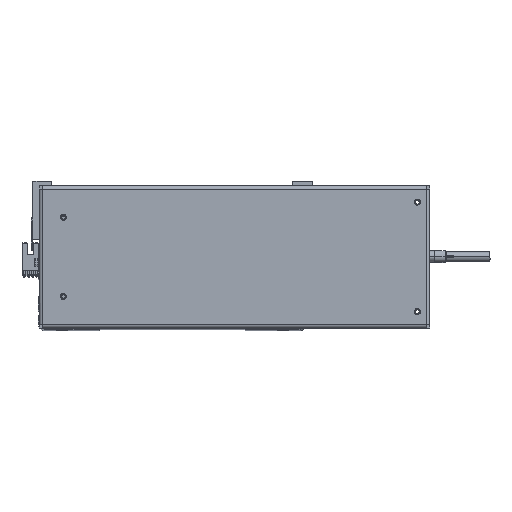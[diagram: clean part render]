
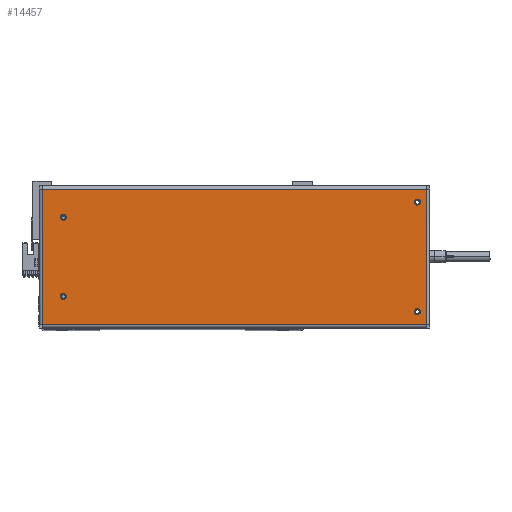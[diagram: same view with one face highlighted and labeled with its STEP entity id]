
A CAD part, top view. The second image highlights one B-rep face of the part: STEP entity #14457.
In plain terms, the highlighted planar face has unit normal (0, 0, 1).
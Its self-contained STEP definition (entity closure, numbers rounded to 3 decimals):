
#6 = EDGE_CURVE ( 'NONE', #35616, #3057, #22934, .T. ) ;
#151 = VERTEX_POINT ( 'NONE', #32840 ) ;
#458 = ORIENTED_EDGE ( 'NONE', *, *, #6, .F. ) ;
#1612 = EDGE_LOOP ( 'NONE', ( #5250, #16543 ) ) ;
#2319 = CARTESIAN_POINT ( 'NONE',  ( 150.5, -45., 0. ) ) ;
#2722 = VERTEX_POINT ( 'NONE', #16200 ) ;
#2921 = ORIENTED_EDGE ( 'NONE', *, *, #7831, .T. ) ;
#2963 = CARTESIAN_POINT ( 'NONE',  ( -157.7, -55.6, 0. ) ) ;
#3057 = VERTEX_POINT ( 'NONE', #39194 ) ;
#3556 = DIRECTION ( 'NONE',  ( 1., 0., 0. ) ) ;
#3595 = CARTESIAN_POINT ( 'NONE',  ( 153., 45., 0. ) ) ;
#4273 = CIRCLE ( 'NONE', #16322, 2.5 ) ;
#4335 = AXIS2_PLACEMENT_3D ( 'NONE', #27675, #15461, #12552 ) ;
#4814 = CARTESIAN_POINT ( 'NONE',  ( 148., -45., 0. ) ) ;
#4960 = EDGE_CURVE ( 'NONE', #11229, #30558, #21006, .T. ) ;
#5250 = ORIENTED_EDGE ( 'NONE', *, *, #6099, .F. ) ;
#5612 = AXIS2_PLACEMENT_3D ( 'NONE', #38696, #20553, #8574 ) ;
#6099 = EDGE_CURVE ( 'NONE', #37694, #11608, #24234, .T. ) ;
#6284 = VERTEX_POINT ( 'NONE', #22015 ) ;
#6983 = ORIENTED_EDGE ( 'NONE', *, *, #21761, .F. ) ;
#7001 = DIRECTION ( 'NONE',  ( -1., 0., 0. ) ) ;
#7831 = EDGE_CURVE ( 'NONE', #29443, #2722, #29369, .T. ) ;
#8574 = DIRECTION ( 'NONE',  ( -1., 0., 0. ) ) ;
#9462 = DIRECTION ( 'NONE',  ( 1., 0., 0. ) ) ;
#10216 = AXIS2_PLACEMENT_3D ( 'NONE', #24970, #21786, #3556 ) ;
#10311 = EDGE_LOOP ( 'NONE', ( #458, #33088 ) ) ;
#10567 = EDGE_CURVE ( 'NONE', #6284, #34957, #27244, .T. ) ;
#11109 = DIRECTION ( 'NONE',  ( 0., 0., 1. ) ) ;
#11229 = VERTEX_POINT ( 'NONE', #24194 ) ;
#11608 = VERTEX_POINT ( 'NONE', #4814 ) ;
#11717 = DIRECTION ( 'NONE',  ( 0., 0., 1. ) ) ;
#11843 = FACE_OUTER_BOUND ( 'NONE', #30831, .T. ) ;
#12148 = LINE ( 'NONE', #34781, #14995 ) ;
#12487 = AXIS2_PLACEMENT_3D ( 'NONE', #14488, #11717, #14758 ) ;
#12552 = DIRECTION ( 'NONE',  ( 1., 0., 0. ) ) ;
#12687 = CARTESIAN_POINT ( 'NONE',  ( 157.6, -55.6, 0. ) ) ;
#12790 = FACE_BOUND ( 'NONE', #30426, .T. ) ;
#13198 = EDGE_CURVE ( 'NONE', #3057, #35616, #4273, .T. ) ;
#13812 = ORIENTED_EDGE ( 'NONE', *, *, #17290, .F. ) ;
#14047 = LINE ( 'NONE', #12687, #20676 ) ;
#14457 = ADVANCED_FACE ( 'NONE', ( #20854, #25596, #20388, #12790, #11843 ), #17488, .F. ) ;
#14469 = EDGE_CURVE ( 'NONE', #11608, #37694, #18506, .T. ) ;
#14488 = CARTESIAN_POINT ( 'NONE',  ( -140.5, 32.5, 0. ) ) ;
#14758 = DIRECTION ( 'NONE',  ( 1., 0., 0. ) ) ;
#14811 = EDGE_LOOP ( 'NONE', ( #19372, #13812 ) ) ;
#14995 = VECTOR ( 'NONE', #19793, 1000. ) ;
#15461 = DIRECTION ( 'NONE',  ( 0., 0., 1. ) ) ;
#15772 = CIRCLE ( 'NONE', #10216, 2.5 ) ;
#16200 = CARTESIAN_POINT ( 'NONE',  ( 157.6, -55.6, 0. ) ) ;
#16322 = AXIS2_PLACEMENT_3D ( 'NONE', #32337, #11109, #32617 ) ;
#16488 = CARTESIAN_POINT ( 'NONE',  ( -143., -32.5, 0. ) ) ;
#16543 = ORIENTED_EDGE ( 'NONE', *, *, #14469, .F. ) ;
#17033 = CARTESIAN_POINT ( 'NONE',  ( -157.6, -55.6, 0. ) ) ;
#17290 = EDGE_CURVE ( 'NONE', #34957, #6284, #28394, .T. ) ;
#17312 = VERTEX_POINT ( 'NONE', #3595 ) ;
#17488 = PLANE ( 'NONE',  #5612 ) ;
#18029 = DIRECTION ( 'NONE',  ( 1., 0., 0. ) ) ;
#18506 = CIRCLE ( 'NONE', #20687, 2.5 ) ;
#18522 = CARTESIAN_POINT ( 'NONE',  ( -140.5, -32.5, 0. ) ) ;
#19372 = ORIENTED_EDGE ( 'NONE', *, *, #10567, .F. ) ;
#19416 = EDGE_CURVE ( 'NONE', #2722, #11229, #14047, .T. ) ;
#19604 = VECTOR ( 'NONE', #7001, 1000. ) ;
#19793 = DIRECTION ( 'NONE',  ( 0., -1., 0. ) ) ;
#19801 = CARTESIAN_POINT ( 'NONE',  ( -140.5, -32.5, 0. ) ) ;
#19929 = DIRECTION ( 'NONE',  ( 1., 0., 0. ) ) ;
#20388 = FACE_BOUND ( 'NONE', #1612, .T. ) ;
#20553 = DIRECTION ( 'NONE',  ( 0., 0., -1. ) ) ;
#20676 = VECTOR ( 'NONE', #22222, 1000. ) ;
#20687 = AXIS2_PLACEMENT_3D ( 'NONE', #2319, #26656, #23859 ) ;
#20798 = AXIS2_PLACEMENT_3D ( 'NONE', #18522, #27648, #9462 ) ;
#20854 = FACE_BOUND ( 'NONE', #14811, .T. ) ;
#21006 = LINE ( 'NONE', #21265, #19604 ) ;
#21265 = CARTESIAN_POINT ( 'NONE',  ( 157.7, 55.6, 0. ) ) ;
#21761 = EDGE_CURVE ( 'NONE', #151, #17312, #15772, .T. ) ;
#21786 = DIRECTION ( 'NONE',  ( 0., 0., 1. ) ) ;
#22015 = CARTESIAN_POINT ( 'NONE',  ( -138., -32.5, 0. ) ) ;
#22222 = DIRECTION ( 'NONE',  ( 0., 1., 0. ) ) ;
#22615 = EDGE_CURVE ( 'NONE', #17312, #151, #36572, .T. ) ;
#22700 = DIRECTION ( 'NONE',  ( 0., 0., 1. ) ) ;
#22934 = CIRCLE ( 'NONE', #12487, 2.5 ) ;
#23859 = DIRECTION ( 'NONE',  ( 1., 0., 0. ) ) ;
#24194 = CARTESIAN_POINT ( 'NONE',  ( 157.6, 55.6, 0. ) ) ;
#24234 = CIRCLE ( 'NONE', #24354, 2.5 ) ;
#24354 = AXIS2_PLACEMENT_3D ( 'NONE', #25894, #31973, #19929 ) ;
#24406 = AXIS2_PLACEMENT_3D ( 'NONE', #19801, #22700, #28799 ) ;
#24970 = CARTESIAN_POINT ( 'NONE',  ( 150.5, 45., 0. ) ) ;
#25596 = FACE_BOUND ( 'NONE', #10311, .T. ) ;
#25894 = CARTESIAN_POINT ( 'NONE',  ( 150.5, -45., 0. ) ) ;
#26101 = ORIENTED_EDGE ( 'NONE', *, *, #22615, .F. ) ;
#26656 = DIRECTION ( 'NONE',  ( 0., 0., 1. ) ) ;
#27244 = CIRCLE ( 'NONE', #24406, 2.5 ) ;
#27338 = CARTESIAN_POINT ( 'NONE',  ( -157.6, 55.6, 0. ) ) ;
#27480 = VECTOR ( 'NONE', #18029, 1000. ) ;
#27648 = DIRECTION ( 'NONE',  ( 0., 0., 1. ) ) ;
#27675 = CARTESIAN_POINT ( 'NONE',  ( 150.5, 45., 0. ) ) ;
#28336 = ORIENTED_EDGE ( 'NONE', *, *, #4960, .T. ) ;
#28394 = CIRCLE ( 'NONE', #20798, 2.5 ) ;
#28799 = DIRECTION ( 'NONE',  ( 1., 0., 0. ) ) ;
#29369 = LINE ( 'NONE', #2963, #27480 ) ;
#29443 = VERTEX_POINT ( 'NONE', #17033 ) ;
#30426 = EDGE_LOOP ( 'NONE', ( #26101, #6983 ) ) ;
#30558 = VERTEX_POINT ( 'NONE', #27338 ) ;
#30831 = EDGE_LOOP ( 'NONE', ( #32224, #2921, #32296, #28336 ) ) ;
#31973 = DIRECTION ( 'NONE',  ( 0., 0., 1. ) ) ;
#32224 = ORIENTED_EDGE ( 'NONE', *, *, #39359, .T. ) ;
#32296 = ORIENTED_EDGE ( 'NONE', *, *, #19416, .T. ) ;
#32337 = CARTESIAN_POINT ( 'NONE',  ( -140.5, 32.5, 0. ) ) ;
#32617 = DIRECTION ( 'NONE',  ( 1., 0., 0. ) ) ;
#32840 = CARTESIAN_POINT ( 'NONE',  ( 148., 45., 0. ) ) ;
#33088 = ORIENTED_EDGE ( 'NONE', *, *, #13198, .F. ) ;
#34058 = CARTESIAN_POINT ( 'NONE',  ( 153., -45., 0. ) ) ;
#34781 = CARTESIAN_POINT ( 'NONE',  ( -157.6, 55.6, 0. ) ) ;
#34957 = VERTEX_POINT ( 'NONE', #16488 ) ;
#35616 = VERTEX_POINT ( 'NONE', #35785 ) ;
#35785 = CARTESIAN_POINT ( 'NONE',  ( -138., 32.5, 0. ) ) ;
#36572 = CIRCLE ( 'NONE', #4335, 2.5 ) ;
#37694 = VERTEX_POINT ( 'NONE', #34058 ) ;
#38696 = CARTESIAN_POINT ( 'NONE',  ( 157.7, 58.5, 0. ) ) ;
#39194 = CARTESIAN_POINT ( 'NONE',  ( -143., 32.5, 0. ) ) ;
#39359 = EDGE_CURVE ( 'NONE', #30558, #29443, #12148, .T. ) ;
